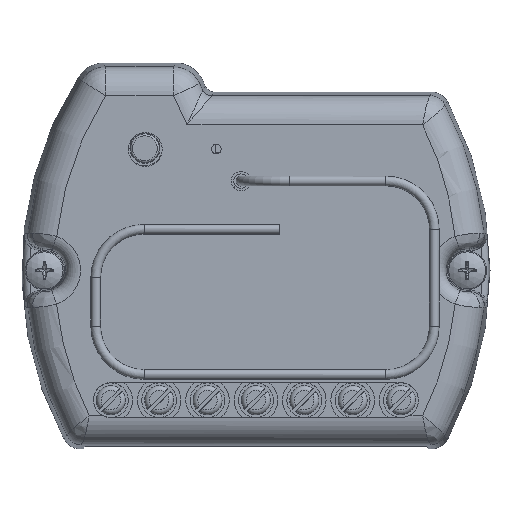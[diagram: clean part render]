
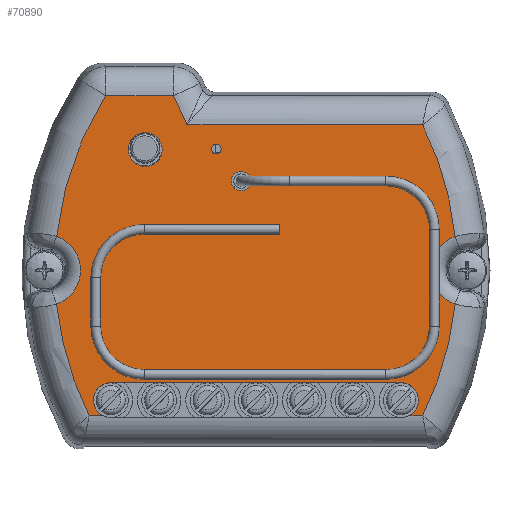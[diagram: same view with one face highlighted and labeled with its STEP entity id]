
A CAD part, top view. The second image highlights one B-rep face of the part: STEP entity #70890.
In plain terms, the highlighted planar face has unit normal (0, 0, 1).
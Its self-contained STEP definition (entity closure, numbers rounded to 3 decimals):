
#2505=FACE_BOUND('',#10773,.T.);
#2506=FACE_BOUND('',#10774,.T.);
#2507=FACE_BOUND('',#10775,.T.);
#4017=PLANE('',#76938);
#6429=FACE_OUTER_BOUND('',#10772,.T.);
#10772=EDGE_LOOP('',(#49991,#49992,#49993,#49994,#49995,#49996,#49997,#49998,
#49999,#50000,#50001,#50002,#50003,#50004));
#10773=EDGE_LOOP('',(#50005));
#10774=EDGE_LOOP('',(#50006));
#10775=EDGE_LOOP('',(#50007));
#15578=LINE('',#108076,#22495);
#15580=LINE('',#108114,#22497);
#15583=LINE('',#108126,#22500);
#15586=LINE('',#108194,#22503);
#15587=LINE('',#108198,#22504);
#15588=LINE('',#108202,#22505);
#22495=VECTOR('',#84794,10.);
#22497=VECTOR('',#84800,10.);
#22500=VECTOR('',#84815,10.);
#22503=VECTOR('',#84844,10.);
#22504=VECTOR('',#84847,10.);
#22505=VECTOR('',#84850,10.);
#29106=CIRCLE('',#76849,1.);
#29110=CIRCLE('',#76855,0.5);
#29145=CIRCLE('',#76933,33.582);
#29148=CIRCLE('',#76939,3.724);
#29149=CIRCLE('',#76940,33.582);
#29150=CIRCLE('',#76941,1.8);
#29151=CIRCLE('',#76942,1.8);
#29152=CIRCLE('',#76943,33.582);
#29153=CIRCLE('',#76944,3.724);
#29154=CIRCLE('',#76945,33.582);
#29155=CIRCLE('',#76946,1.75);
#32118=VERTEX_POINT('',#106225);
#32121=VERTEX_POINT('',#106235);
#32218=VERTEX_POINT('',#108064);
#32220=VERTEX_POINT('',#108075);
#32222=VERTEX_POINT('',#108112);
#32225=VERTEX_POINT('',#108124);
#32229=VERTEX_POINT('',#108164);
#32234=VERTEX_POINT('',#108189);
#32235=VERTEX_POINT('',#108191);
#32236=VERTEX_POINT('',#108193);
#32237=VERTEX_POINT('',#108195);
#32238=VERTEX_POINT('',#108197);
#32239=VERTEX_POINT('',#108199);
#32240=VERTEX_POINT('',#108201);
#32241=VERTEX_POINT('',#108203);
#32242=VERTEX_POINT('',#108205);
#32243=VERTEX_POINT('',#108208);
#38841=EDGE_CURVE('',#32118,#32118,#29106,.T.);
#38846=EDGE_CURVE('',#32121,#32121,#29110,.T.);
#38970=EDGE_CURVE('',#32218,#32220,#15578,.T.);
#38974=EDGE_CURVE('',#32222,#32218,#15580,.T.);
#38980=EDGE_CURVE('',#32225,#32222,#15583,.T.);
#38989=EDGE_CURVE('',#32229,#32225,#29145,.T.);
#38995=EDGE_CURVE('',#32234,#32229,#29148,.T.);
#38996=EDGE_CURVE('',#32235,#32234,#29149,.T.);
#38997=EDGE_CURVE('',#32236,#32235,#15586,.T.);
#38998=EDGE_CURVE('',#32236,#32237,#29150,.T.);
#38999=EDGE_CURVE('',#32237,#32238,#15587,.T.);
#39000=EDGE_CURVE('',#32238,#32239,#29151,.T.);
#39001=EDGE_CURVE('',#32240,#32239,#15588,.T.);
#39002=EDGE_CURVE('',#32241,#32240,#29152,.T.);
#39003=EDGE_CURVE('',#32242,#32241,#29153,.T.);
#39004=EDGE_CURVE('',#32220,#32242,#29154,.T.);
#39005=EDGE_CURVE('',#32243,#32243,#29155,.T.);
#49991=ORIENTED_EDGE('',*,*,#38980,.F.);
#49992=ORIENTED_EDGE('',*,*,#38989,.F.);
#49993=ORIENTED_EDGE('',*,*,#38995,.F.);
#49994=ORIENTED_EDGE('',*,*,#38996,.F.);
#49995=ORIENTED_EDGE('',*,*,#38997,.F.);
#49996=ORIENTED_EDGE('',*,*,#38998,.T.);
#49997=ORIENTED_EDGE('',*,*,#38999,.T.);
#49998=ORIENTED_EDGE('',*,*,#39000,.T.);
#49999=ORIENTED_EDGE('',*,*,#39001,.F.);
#50000=ORIENTED_EDGE('',*,*,#39002,.F.);
#50001=ORIENTED_EDGE('',*,*,#39003,.F.);
#50002=ORIENTED_EDGE('',*,*,#39004,.F.);
#50003=ORIENTED_EDGE('',*,*,#38970,.F.);
#50004=ORIENTED_EDGE('',*,*,#38974,.F.);
#50005=ORIENTED_EDGE('',*,*,#38841,.T.);
#50006=ORIENTED_EDGE('',*,*,#38846,.T.);
#50007=ORIENTED_EDGE('',*,*,#39005,.T.);
#70890=ADVANCED_FACE('',(#6429,#2505,#2506,#2507),#4017,.T.);
#76849=AXIS2_PLACEMENT_3D('',#106226,#84591,#84592);
#76855=AXIS2_PLACEMENT_3D('',#106236,#84604,#84605);
#76933=AXIS2_PLACEMENT_3D('',#108170,#84827,#84828);
#76938=AXIS2_PLACEMENT_3D('',#108188,#84838,#84839);
#76939=AXIS2_PLACEMENT_3D('',#108190,#84840,#84841);
#76940=AXIS2_PLACEMENT_3D('',#108192,#84842,#84843);
#76941=AXIS2_PLACEMENT_3D('',#108196,#84845,#84846);
#76942=AXIS2_PLACEMENT_3D('',#108200,#84848,#84849);
#76943=AXIS2_PLACEMENT_3D('',#108204,#84851,#84852);
#76944=AXIS2_PLACEMENT_3D('',#108206,#84853,#84854);
#76945=AXIS2_PLACEMENT_3D('',#108207,#84855,#84856);
#76946=AXIS2_PLACEMENT_3D('',#108209,#84857,#84858);
#84591=DIRECTION('center_axis',(0.,0.,-1.));
#84592=DIRECTION('ref_axis',(-1.,0.,0.));
#84604=DIRECTION('center_axis',(0.,0.,-1.));
#84605=DIRECTION('ref_axis',(-1.,0.,0.));
#84794=DIRECTION('',(1.,0.,0.));
#84800=DIRECTION('',(0.423,-0.906,0.));
#84815=DIRECTION('',(1.,0.,0.));
#84827=DIRECTION('center_axis',(0.,0.,-1.));
#84828=DIRECTION('ref_axis',(-0.962,0.272,0.));
#84838=DIRECTION('center_axis',(0.,0.,1.));
#84839=DIRECTION('ref_axis',(1.,0.,0.));
#84840=DIRECTION('center_axis',(0.,0.,1.));
#84841=DIRECTION('ref_axis',(1.,0.,0.));
#84842=DIRECTION('center_axis',(0.,0.,-1.));
#84843=DIRECTION('ref_axis',(-0.962,-0.272,0.));
#84844=DIRECTION('',(-1.,0.,0.));
#84845=DIRECTION('center_axis',(0.,0.,-1.));
#84846=DIRECTION('ref_axis',(-1.,0.,0.));
#84847=DIRECTION('',(1.,0.,0.));
#84848=DIRECTION('center_axis',(0.,0.,-1.));
#84849=DIRECTION('ref_axis',(-1.,0.,0.));
#84850=DIRECTION('',(-1.,0.,0.));
#84851=DIRECTION('center_axis',(0.,0.,-1.));
#84852=DIRECTION('ref_axis',(0.962,-0.272,0.));
#84853=DIRECTION('center_axis',(0.,0.,1.));
#84854=DIRECTION('ref_axis',(-1.,0.,0.));
#84855=DIRECTION('center_axis',(0.,0.,-1.));
#84856=DIRECTION('ref_axis',(0.962,0.272,0.));
#84857=DIRECTION('center_axis',(0.,0.,-1.));
#84858=DIRECTION('ref_axis',(1.,0.,0.));
#106225=CARTESIAN_POINT('',(-0.554,9.221,12.5));
#106226=CARTESIAN_POINT('Origin',(-1.554,9.221,12.5));
#106235=CARTESIAN_POINT('',(-3.585,12.527,12.5));
#106236=CARTESIAN_POINT('Origin',(-4.085,12.527,12.5));
#108064=CARTESIAN_POINT('',(-7.126,15.032,12.5));
#108075=CARTESIAN_POINT('',(17.23,15.032,12.5));
#108076=CARTESIAN_POINT('',(-9.047,15.032,12.5));
#108112=CARTESIAN_POINT('',(-8.525,18.032,12.5));
#108114=CARTESIAN_POINT('',(-9.516,20.156,12.5));
#108124=CARTESIAN_POINT('',(-15.53,18.032,12.5));
#108126=CARTESIAN_POINT('',(-14.761,18.032,12.5));
#108164=CARTESIAN_POINT('',(-20.599,3.508,12.5));
#108170=CARTESIAN_POINT('Origin',(12.8,0.,12.5));
#108188=CARTESIAN_POINT('Origin',(-12.174,19.1,12.5));
#108189=CARTESIAN_POINT('',(-20.599,-3.508,12.5));
#108190=CARTESIAN_POINT('Origin',(-21.85,0.,
12.5));
#108191=CARTESIAN_POINT('',(-17.23,-15.032,12.5));
#108192=CARTESIAN_POINT('Origin',(12.8,0.,12.5));
#108193=CARTESIAN_POINT('',(-15.807,-15.032,12.5));
#108194=CARTESIAN_POINT('',(9.047,-15.032,12.5));
#108195=CARTESIAN_POINT('',(-15.,-11.623,12.5));
#108196=CARTESIAN_POINT('Origin',(-15.,-13.423,12.5));
#108197=CARTESIAN_POINT('',(15.,-11.623,12.5));
#108198=CARTESIAN_POINT('',(7.5,-11.623,12.5));
#108199=CARTESIAN_POINT('',(15.807,-15.032,12.5));
#108200=CARTESIAN_POINT('Origin',(15.,-13.423,12.5));
#108201=CARTESIAN_POINT('',(17.23,-15.032,12.5));
#108202=CARTESIAN_POINT('',(9.047,-15.032,12.5));
#108203=CARTESIAN_POINT('',(20.599,-3.508,12.5));
#108204=CARTESIAN_POINT('Origin',(-12.8,0.,12.5));
#108205=CARTESIAN_POINT('',(20.599,3.508,12.5));
#108206=CARTESIAN_POINT('Origin',(21.85,0.,12.5));
#108207=CARTESIAN_POINT('Origin',(-12.8,0.,12.5));
#108208=CARTESIAN_POINT('',(-13.184,12.491,12.5));
#108209=CARTESIAN_POINT('Origin',(-11.434,12.491,12.5));
